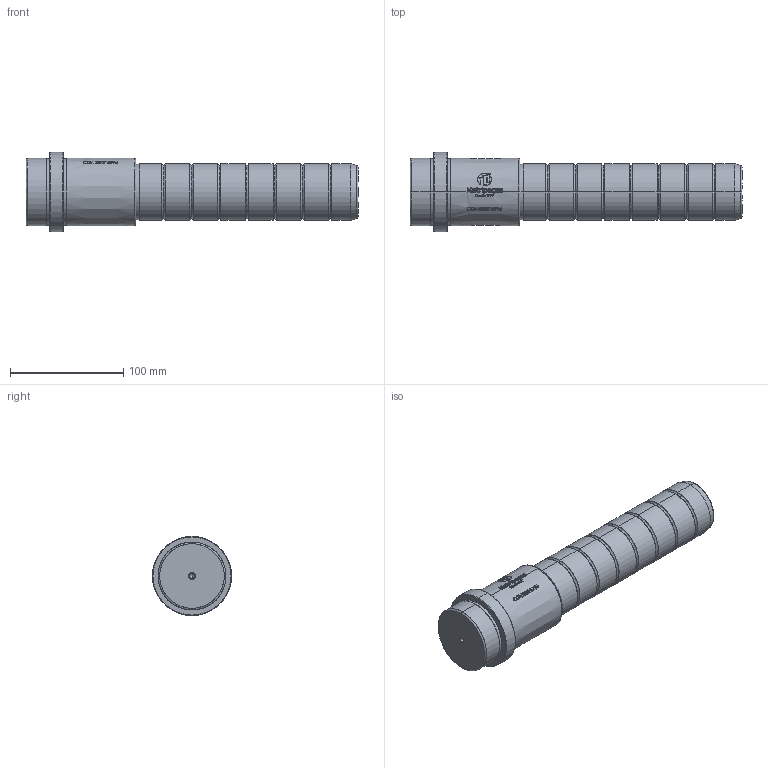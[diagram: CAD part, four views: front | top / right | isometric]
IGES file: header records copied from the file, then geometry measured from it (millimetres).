
Start section: SolidWorks IGES file using analytic representation for surfaces
Global section: file name: E:\1.TRIVECTOR\Clientes\MATRIPEÇAS\PEÇAS_CATALOGO_SITE\6.CGM - COLUNA PRINCIPAL TIPO GUIA (CATÁLOGO)\CGM50076196.IGS; native system: SolidWorks 2024; preprocessor: SolidWorks 2024; author: Gabriel Techio; date: 260911.153104; units: millimetre
Bounding box: 293 x 70 x 70 mm (x, y, z)
Surface area: 58825.4 mm2 (no closed solid volume)
Topology: 0 solids, 0 shells, 544 faces, 6406 edges, 6402 vertices
Faces by surface type: bspline 423, revolution 121
